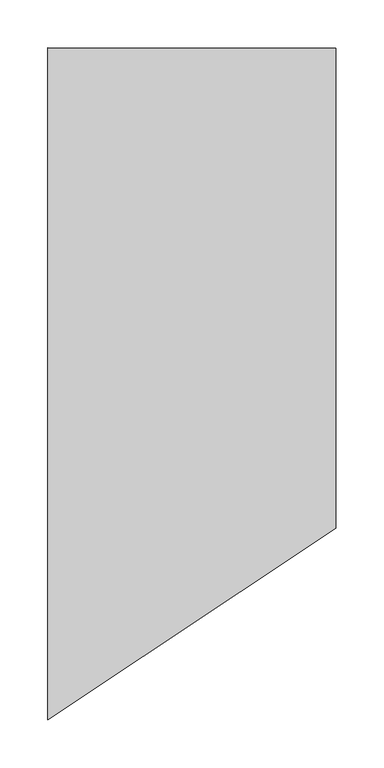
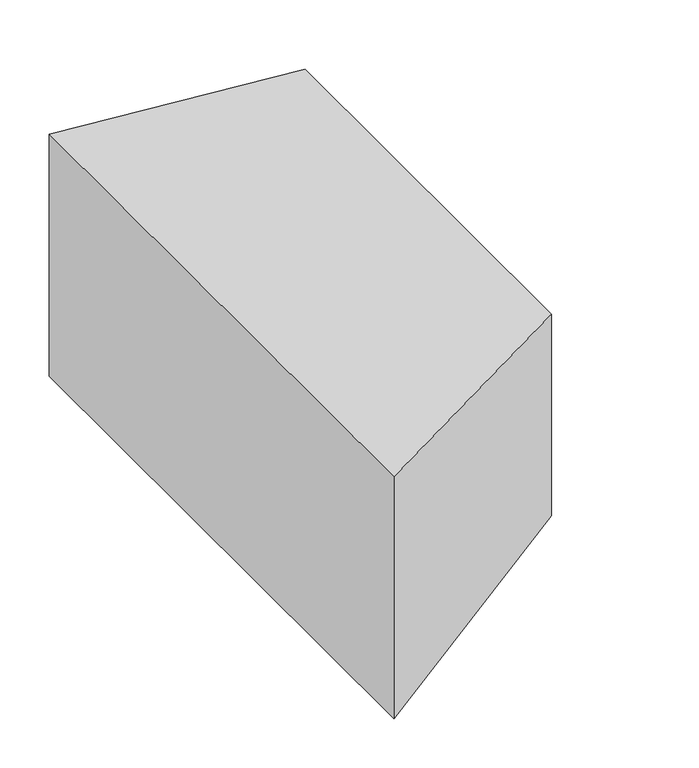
"""IFC4 building model written with IfcOpenShell, lengths in millimetres: duct fitting geometry, ADSK_ПереходникВоздуховодов_Прямоугольный1 : Стандартное 2."""

from ifc_helpers import new_model, si_unit, origin, place, context, project, spatial, faceted_brep, source, transform, mapped, element, save


def duct_fitting_34ef1e60(model_context):
    return source(origin(), model_context, "Body", "Brep", [
        faceted_brep([(300.0, -150.0667163, 125.0), (300.0, -150.0667163, -125.0), (300.0, 349.9332837, -125.0), (300.0, 349.9332837, 125.0), (0.0, -350.0, 150.0), (0.0, 350.0, 150.0), (0.0, 350.0, -150.0), (0.0, -350.0, -150.0)], [[[0, 1, 2, 3]], [[4, 5, 6, 7]], [[4, 7, 1, 0]], [[7, 6, 2, 1]], [[6, 5, 3, 2]], [[5, 4, 0, 3]]]),
    ])


if __name__ == "__main__":
    model = new_model("IFC4")
    model_context = context("Model", 3, world=origin())
    ifc_project = project(units=[si_unit("LENGTHUNIT", "METRE", prefix="MILLI")], contexts=[model_context])
    site = spatial("IfcSite", under=ifc_project)
    building = spatial("IfcBuilding", under=site)
    placement = place(None, origin())
    duct_fitting_shape = duct_fitting_34ef1e60(model_context)
    element("IfcDuctFitting", 1, ObjectType="ADSK_ПереходникВоздуховодов_Прямоугольный1 : Стандартное 2", at=placement, inside=building, context=model_context, shape_type="MappedRepresentation", body=[
        mapped(duct_fitting_shape, transform((0.0, 0.0, 0.0), x_axis=(1.0, 0.0, 0.0), y_axis=(0.0, 1.0, 0.0), z_axis=(0.0, 0.0, 1.0))),
    ])
    save(model, "model.ifc")
